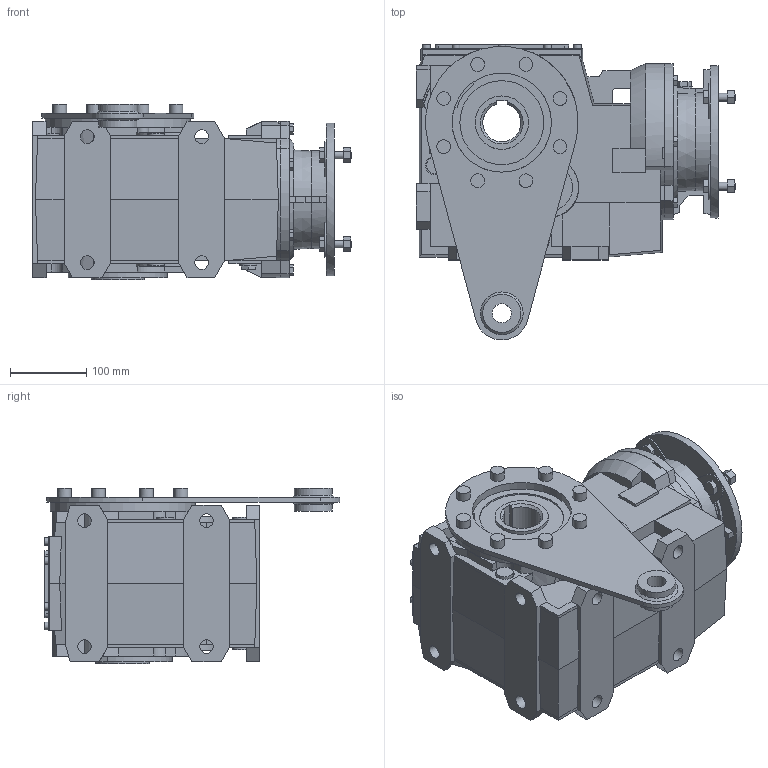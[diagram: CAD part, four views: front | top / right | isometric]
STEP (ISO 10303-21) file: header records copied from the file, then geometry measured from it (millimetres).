
FILE_DESCRIPTION(/* description */ ('STEP AP203'),/* implementation_level */ '2;1');
FILE_NAME(/* name */ 'B103UC90_B5500000110NO----_---------------',/* time_stamp */ '2025-12-18T08:51:27+01:00',/* author */ ('License CC BY-ND 4.0'),/* organization */ ('CADENAS'),/* preprocessor_version */ 'ST-DEVELOPER v20',/* originating_system */ 'PARTsolutions',/* authorisation */ ' ');
FILE_SCHEMA (('CONFIG_CONTROL_DESIGN'));
Length unit declared in the file: millimetre
Products named in the file (6): B103UC90 B5500000110NO----(---------------); 103-U-70; 103-50-C; 103-250U-B10008_1; 103-B-200x24(90 B51); B103-200x24
Assembly tree (5 placements, depth 2):
  B103UC90 B5500000110NO----(---------------)
    103-U-70
    103-50-C
    103-250U-B10008_1
    103-B-200x24(90 B51)
    B103-200x24
Bounding box: 418.5 x 387.87 x 230 mm (x, y, z)
Volume: 15253516.1 mm3; surface area: 907307.5 mm2
Topology: 5 solids, 5 shells, 743 faces, 1875 edges, 1239 vertices
Faces by surface type: plane 532, cylinder 147, cone 63, torus 1
Full cylindrical faces by diameter (mm): 5 x3, 9.412 x3, 10 x22, 10.106 x12, 18 x24, 22 x5, 25 x6, 32 x1, 39.5 x1, 50 x2, 62 x2, 70 x2, 110 x2, 130 x2, 160 x2, 190 x1, 200 x1
Entity records: 21211 total; most frequent: CARTESIAN_POINT 3822, DIRECTION 3510, ORIENTED_EDGE 3356, EDGE_CURVE 1678, LINE 1206, VECTOR 1206, VERTEX_POINT 1185, AXIS2_PLACEMENT_3D 1152
